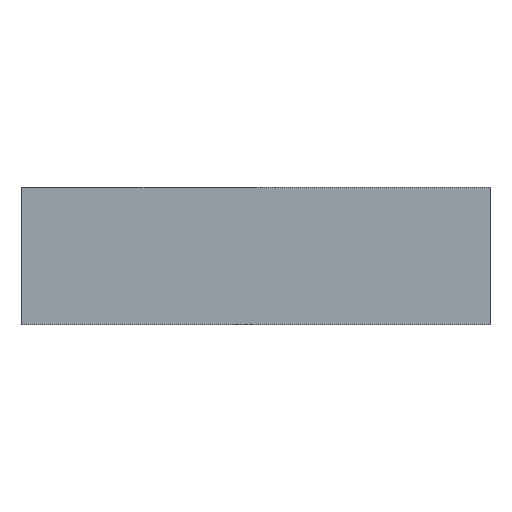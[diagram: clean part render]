
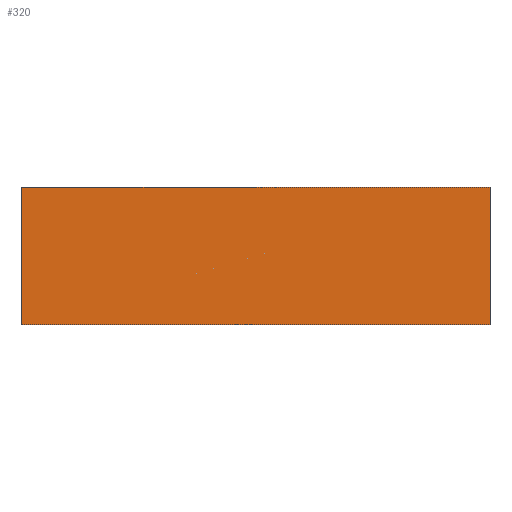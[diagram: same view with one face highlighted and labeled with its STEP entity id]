
A CAD part, front view. The second image highlights one B-rep face of the part: STEP entity #320.
In plain terms, the highlighted planar face has unit normal (0, -1, 0).
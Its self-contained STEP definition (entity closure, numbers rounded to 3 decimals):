
#70 = ORIENTED_EDGE ( 'NONE', *, *, #391, .T. ) ;
#74 = ORIENTED_EDGE ( 'NONE', *, *, #406, .T. ) ;
#77 = FACE_OUTER_BOUND ( 'NONE', #131, .T. ) ;
#120 = ORIENTED_EDGE ( 'NONE', *, *, #419, .F. ) ;
#125 = ORIENTED_EDGE ( 'NONE', *, *, #418, .F. ) ;
#131 = EDGE_LOOP ( 'NONE', ( #74, #120, #125, #70 ) ) ;
#239 = LINE ( 'NONE', #567, #254 ) ;
#254 = VECTOR ( 'NONE', #559, 1000. ) ;
#273 = LINE ( 'NONE', #438, #274 ) ;
#274 = VECTOR ( 'NONE', #647, 1000. ) ;
#291 = LINE ( 'NONE', #654, #292 ) ;
#292 = VECTOR ( 'NONE', #538, 1000. ) ;
#293 = LINE ( 'NONE', #582, #294 ) ;
#294 = VECTOR ( 'NONE', #560, 1000. ) ;
#320 = ADVANCED_FACE ( 'NONE', ( #77 ), #608, .F. ) ;
#339 = AXIS2_PLACEMENT_3D ( 'NONE', #611, #641, #732 ) ;
#391 = EDGE_CURVE ( 'NONE', #552, #736, #239, .T. ) ;
#406 = EDGE_CURVE ( 'NONE', #736, #461, #273, .T. ) ;
#418 = EDGE_CURVE ( 'NONE', #552, #549, #291, .T. ) ;
#419 = EDGE_CURVE ( 'NONE', #549, #461, #293, .T. ) ;
#438 = CARTESIAN_POINT ( 'NONE',  ( -204., 0., 0. ) ) ;
#461 = VERTEX_POINT ( 'NONE', #502 ) ;
#502 = CARTESIAN_POINT ( 'NONE',  ( 204., 0., 0. ) ) ;
#538 = DIRECTION ( 'NONE',  ( 1., 0., 0. ) ) ;
#549 = VERTEX_POINT ( 'NONE', #721 ) ;
#552 = VERTEX_POINT ( 'NONE', #595 ) ;
#559 = DIRECTION ( 'NONE',  ( 0., 0., -1. ) ) ;
#560 = DIRECTION ( 'NONE',  ( 0., 0., -1. ) ) ;
#567 = CARTESIAN_POINT ( 'NONE',  ( -204., 0., 120. ) ) ;
#582 = CARTESIAN_POINT ( 'NONE',  ( 204., 0., 120. ) ) ;
#595 = CARTESIAN_POINT ( 'NONE',  ( -204., 0., 120. ) ) ;
#608 = PLANE ( 'NONE',  #339 ) ;
#611 = CARTESIAN_POINT ( 'NONE',  ( -204., 0., 120. ) ) ;
#641 = DIRECTION ( 'NONE',  ( 0., 1., 0. ) ) ;
#647 = DIRECTION ( 'NONE',  ( 1., 0., 0. ) ) ;
#654 = CARTESIAN_POINT ( 'NONE',  ( -204., 0., 120. ) ) ;
#688 = CARTESIAN_POINT ( 'NONE',  ( -204., 0., 0. ) ) ;
#721 = CARTESIAN_POINT ( 'NONE',  ( 204., 0., 120. ) ) ;
#732 = DIRECTION ( 'NONE',  ( -1., 0., 0. ) ) ;
#736 = VERTEX_POINT ( 'NONE', #688 ) ;
